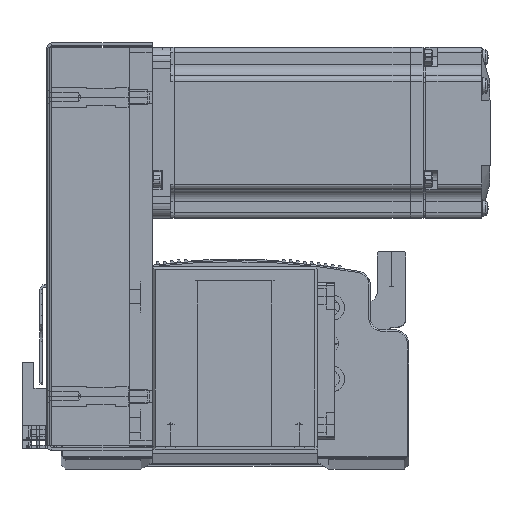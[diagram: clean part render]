
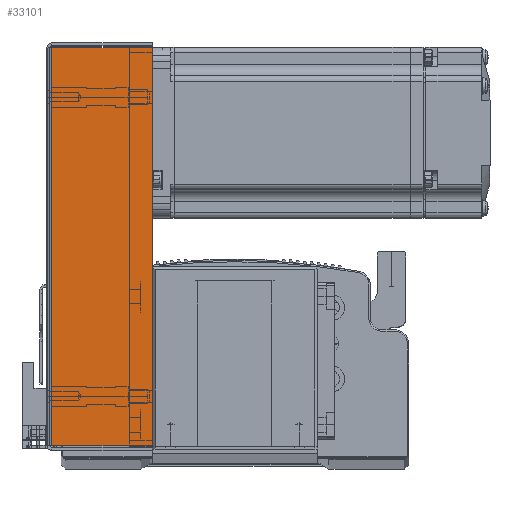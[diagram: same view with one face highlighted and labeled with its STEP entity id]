
A CAD part, top view. The second image highlights one B-rep face of the part: STEP entity #33101.
In plain terms, the highlighted planar face has unit normal (0, 0, 1) as drawn and (0, 0, -1) by its records, which use the part's own axes.
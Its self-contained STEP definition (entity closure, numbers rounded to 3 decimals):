
#30358 = CARTESIAN_POINT ( 'NONE',  ( 69.793, 36., -33.5 ) ) ;
#30427 = CARTESIAN_POINT ( 'NONE',  ( -69.793, 36., -33.5 ) ) ;
#30442 = CARTESIAN_POINT ( 'NONE',  ( -69.793, 0.737, -33.5 ) ) ;
#30463 = CARTESIAN_POINT ( 'NONE',  ( 69.793, 0.737, -33.5 ) ) ;
#33101 = ADVANCED_FACE ( 'NONE', ( #68225 ), #65153, .F. ) ;
#48072 = EDGE_CURVE ( 'NONE', #76022, #75991, #95294, .T. ) ;
#48089 = EDGE_CURVE ( 'NONE', #76002, #75991, #95310, .T. ) ;
#48150 = EDGE_CURVE ( 'NONE', #76052, #76002, #95337, .T. ) ;
#48163 = EDGE_CURVE ( 'NONE', #76052, #76022, #95354, .T. ) ;
#57403 = AXIS2_PLACEMENT_3D ( 'NONE', #65155, #65076, #65131 ) ;
#65076 = DIRECTION ( 'NONE',  ( 0., 0., 1. ) ) ;
#65131 = DIRECTION ( 'NONE',  ( 0., -1., 0. ) ) ;
#65153 = PLANE ( 'NONE',  #57403 ) ;
#65155 = CARTESIAN_POINT ( 'NONE',  ( 0., 0., -33.5 ) ) ;
#68225 = FACE_OUTER_BOUND ( 'NONE', #77700, .T. ) ;
#75991 = VERTEX_POINT ( 'NONE', #30358 ) ;
#76002 = VERTEX_POINT ( 'NONE', #30463 ) ;
#76022 = VERTEX_POINT ( 'NONE', #30427 ) ;
#76052 = VERTEX_POINT ( 'NONE', #30442 ) ;
#77700 = EDGE_LOOP ( 'NONE', ( #81292, #81297, #81305, #81359 ) ) ;
#81292 = ORIENTED_EDGE ( 'NONE', *, *, #48150, .F. ) ;
#81297 = ORIENTED_EDGE ( 'NONE', *, *, #48163, .T. ) ;
#81305 = ORIENTED_EDGE ( 'NONE', *, *, #48072, .T. ) ;
#81359 = ORIENTED_EDGE ( 'NONE', *, *, #48089, .F. ) ;
#95271 = VECTOR ( 'NONE', #97717, 1000. ) ;
#95294 = LINE ( 'NONE', #97709, #95271 ) ;
#95310 = LINE ( 'NONE', #97745, #95311 ) ;
#95311 = VECTOR ( 'NONE', #97746, 1000. ) ;
#95337 = LINE ( 'NONE', #96946, #95349 ) ;
#95349 = VECTOR ( 'NONE', #96971, 1000. ) ;
#95354 = LINE ( 'NONE', #97023, #95356 ) ;
#95356 = VECTOR ( 'NONE', #97226, 1000. ) ;
#96946 = CARTESIAN_POINT ( 'NONE',  ( 71.5, 0.737, -33.5 ) ) ;
#96971 = DIRECTION ( 'NONE',  ( 1., 0., 0. ) ) ;
#97023 = CARTESIAN_POINT ( 'NONE',  ( -69.793, 0., -33.5 ) ) ;
#97226 = DIRECTION ( 'NONE',  ( 0., 1., 0. ) ) ;
#97709 = CARTESIAN_POINT ( 'NONE',  ( 0., 36., -33.5 ) ) ;
#97717 = DIRECTION ( 'NONE',  ( 1., 0., 0. ) ) ;
#97745 = CARTESIAN_POINT ( 'NONE',  ( 69.793, 0., -33.5 ) ) ;
#97746 = DIRECTION ( 'NONE',  ( 0., 1., 0. ) ) ;
